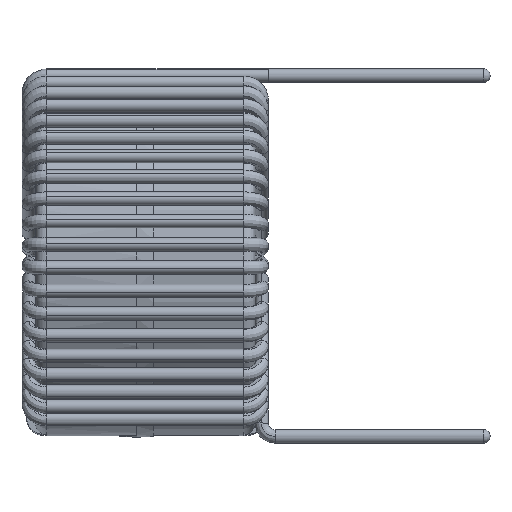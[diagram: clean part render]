
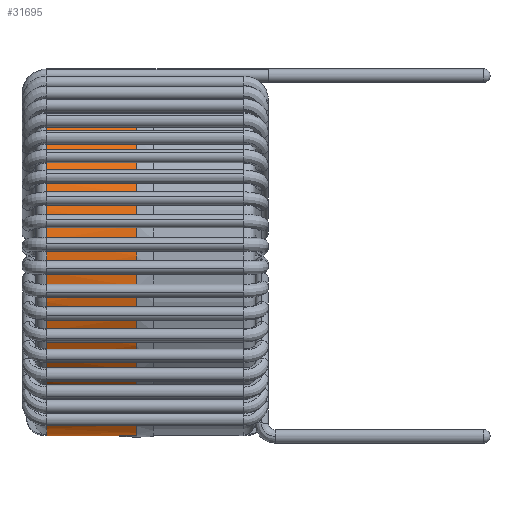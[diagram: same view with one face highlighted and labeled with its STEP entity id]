
A CAD part, left-side view. The second image highlights one B-rep face of the part: STEP entity #31695.
In plain terms, the highlighted cylindrical face has radius 10.6 mm (diameter 21.2 mm), a partial arc.
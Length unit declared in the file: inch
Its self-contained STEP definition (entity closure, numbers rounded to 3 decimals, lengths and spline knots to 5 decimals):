
#39 = VECTOR ( 'NONE', #16047, 39.37008 ) ;
#440 = VERTEX_POINT ( 'NONE', #8659 ) ;
#490 = EDGE_CURVE ( 'NONE', #31825, #17337, #29497, .T. ) ;
#605 = EDGE_CURVE ( 'NONE', #28403, #440, #31106, .T. ) ;
#658 = ORIENTED_EDGE ( 'NONE', *, *, #33085, .T. ) ;
#1029 = VECTOR ( 'NONE', #13688, 39.37008 ) ;
#1150 = CARTESIAN_POINT ( 'NONE',  ( 0., 0.25492, 0.41732 ) ) ;
#2117 = DIRECTION ( 'NONE',  ( 0., -1., 0. ) ) ;
#2166 = CARTESIAN_POINT ( 'NONE',  ( -0.01476, 0.23622, -0.41706 ) ) ;
#2294 = DIRECTION ( 'NONE',  ( 0., 0., 1. ) ) ;
#2312 = VECTOR ( 'NONE', #30551, 39.37008 ) ;
#2628 = VECTOR ( 'NONE', #13428, 39.37008 ) ;
#2908 = DIRECTION ( 'NONE',  ( 0., 0., 1. ) ) ;
#2927 = CARTESIAN_POINT ( 'NONE',  ( -0.01476, 0.22933, 0.41706 ) ) ;
#3363 = CARTESIAN_POINT ( 'NONE',  ( 0., 0.02008, 0.41732 ) ) ;
#3783 = AXIS2_PLACEMENT_3D ( 'NONE', #15179, #29377, #28081 ) ;
#4659 = FACE_OUTER_BOUND ( 'NONE', #34898, .T. ) ;
#4674 = EDGE_CURVE ( 'NONE', #6502, #36949, #12149, .T. ) ;
#4902 = ORIENTED_EDGE ( 'NONE', *, *, #38912, .T. ) ;
#5272 = ORIENTED_EDGE ( 'NONE', *, *, #490, .T. ) ;
#5689 = EDGE_CURVE ( 'NONE', #13527, #37315, #7384, .T. ) ;
#6007 = CARTESIAN_POINT ( 'NONE',  ( -0.04429, 0.27559, 0.41497 ) ) ;
#6102 = VECTOR ( 'NONE', #30007, 39.37008 ) ;
#6502 = VERTEX_POINT ( 'NONE', #30390 ) ;
#6916 = ORIENTED_EDGE ( 'NONE', *, *, #38375, .T. ) ;
#7082 = AXIS2_PLACEMENT_3D ( 'NONE', #32742, #32125, #14669 ) ;
#7384 = LINE ( 'NONE', #15141, #6102 ) ;
#7607 = LINE ( 'NONE', #1150, #2628 ) ;
#7856 = ORIENTED_EDGE ( 'NONE', *, *, #39850, .T. ) ;
#8297 = DIRECTION ( 'NONE',  ( 0., -1., 0. ) ) ;
#8659 = CARTESIAN_POINT ( 'NONE',  ( 0., 0.02008, -0.41732 ) ) ;
#8770 = CARTESIAN_POINT ( 'NONE',  ( 0., 0.23622, 0. ) ) ;
#9155 = EDGE_CURVE ( 'NONE', #6502, #25369, #29306, .T. ) ;
#9222 = ORIENTED_EDGE ( 'NONE', *, *, #31318, .T. ) ;
#9313 = EDGE_CURVE ( 'NONE', #31825, #36937, #18631, .T. ) ;
#9485 = ORIENTED_EDGE ( 'NONE', *, *, #28843, .T. ) ;
#9637 = VECTOR ( 'NONE', #2117, 39.37008 ) ;
#10011 = AXIS2_PLACEMENT_3D ( 'NONE', #39159, #21651, #2908 ) ;
#11441 = VECTOR ( 'NONE', #8297, 39.37008 ) ;
#11523 = CARTESIAN_POINT ( 'NONE',  ( -0.01476, 0.22933, -0.41706 ) ) ;
#11789 = DIRECTION ( 'NONE',  ( 0., -1., 0. ) ) ;
#12034 = EDGE_CURVE ( 'NONE', #33557, #13527, #7607, .T. ) ;
#12149 = LINE ( 'NONE', #21211, #39 ) ;
#12364 = ORIENTED_EDGE ( 'NONE', *, *, #12034, .F. ) ;
#12447 = ORIENTED_EDGE ( 'NONE', *, *, #9155, .T. ) ;
#12669 = CARTESIAN_POINT ( 'NONE',  ( -0.04429, 0.23622, 0.41497 ) ) ;
#12670 = ORIENTED_EDGE ( 'NONE', *, *, #605, .T. ) ;
#13319 = CIRCLE ( 'NONE', #24200, 0.41732 ) ;
#13428 = DIRECTION ( 'NONE',  ( 0., -1., 0. ) ) ;
#13527 = VERTEX_POINT ( 'NONE', #3363 ) ;
#13688 = DIRECTION ( 'NONE',  ( 0., -1., 0. ) ) ;
#14291 = VERTEX_POINT ( 'NONE', #36503 ) ;
#14491 = CARTESIAN_POINT ( 'NONE',  ( 0., 0.22933, 0.41732 ) ) ;
#14669 = DIRECTION ( 'NONE',  ( 0., 0., 1. ) ) ;
#14745 = CARTESIAN_POINT ( 'NONE',  ( -0.01476, 0.27559, 0.41706 ) ) ;
#14808 = VERTEX_POINT ( 'NONE', #11523 ) ;
#15024 = LINE ( 'NONE', #37684, #9637 ) ;
#15044 = DIRECTION ( 'NONE',  ( 0., 0., 1. ) ) ;
#15141 = CARTESIAN_POINT ( 'NONE',  ( 0., 0.25492, 0.41732 ) ) ;
#15179 = CARTESIAN_POINT ( 'NONE',  ( 0., 0.23622, 0. ) ) ;
#16043 = CIRCLE ( 'NONE', #24462, 0.41732 ) ;
#16047 = DIRECTION ( 'NONE',  ( 0., -1., 0. ) ) ;
#16504 = DIRECTION ( 'NONE',  ( 0., -1., 0. ) ) ;
#17337 = VERTEX_POINT ( 'NONE', #12669 ) ;
#17593 = DIRECTION ( 'NONE',  ( 0., -1., 0. ) ) ;
#18169 = EDGE_CURVE ( 'NONE', #440, #24044, #15024, .T. ) ;
#18412 = CARTESIAN_POINT ( 'NONE',  ( -0.04429, 0.22933, -0.41497 ) ) ;
#18631 = LINE ( 'NONE', #14745, #11441 ) ;
#20576 = CARTESIAN_POINT ( 'NONE',  ( 0., 0.22933, -0.41732 ) ) ;
#20839 = DIRECTION ( 'NONE',  ( 0., 0., -1. ) ) ;
#20936 = CARTESIAN_POINT ( 'NONE',  ( 0., 0.01969, -0.41732 ) ) ;
#21211 = CARTESIAN_POINT ( 'NONE',  ( -0.04429, 0.27559, -0.41497 ) ) ;
#21651 = DIRECTION ( 'NONE',  ( 0., 1., 0. ) ) ;
#23920 = AXIS2_PLACEMENT_3D ( 'NONE', #8770, #16504, #36614 ) ;
#24044 = VERTEX_POINT ( 'NONE', #20936 ) ;
#24200 = AXIS2_PLACEMENT_3D ( 'NONE', #33913, #31245, #2294 ) ;
#24400 = CIRCLE ( 'NONE', #10011, 0.41732 ) ;
#24462 = AXIS2_PLACEMENT_3D ( 'NONE', #35739, #17593, #15044 ) ;
#24705 = CYLINDRICAL_SURFACE ( 'NONE', #39034, 0.41732 ) ;
#25246 = ORIENTED_EDGE ( 'NONE', *, *, #4674, .F. ) ;
#25304 = ORIENTED_EDGE ( 'NONE', *, *, #9313, .F. ) ;
#25369 = VERTEX_POINT ( 'NONE', #2166 ) ;
#25901 = VECTOR ( 'NONE', #37001, 39.37008 ) ;
#28081 = DIRECTION ( 'NONE',  ( 0., 0., 1. ) ) ;
#28403 = VERTEX_POINT ( 'NONE', #20576 ) ;
#28843 = EDGE_CURVE ( 'NONE', #24044, #37315, #24400, .T. ) ;
#29306 = CIRCLE ( 'NONE', #23920, 0.41732 ) ;
#29377 = DIRECTION ( 'NONE',  ( 0., -1., 0. ) ) ;
#29497 = CIRCLE ( 'NONE', #3783, 0.41732 ) ;
#30007 = DIRECTION ( 'NONE',  ( 0., -1., 0. ) ) ;
#30390 = CARTESIAN_POINT ( 'NONE',  ( -0.04429, 0.23622, -0.41497 ) ) ;
#30504 = CIRCLE ( 'NONE', #7082, 0.41732 ) ;
#30551 = DIRECTION ( 'NONE',  ( 0., -1., 0. ) ) ;
#30915 = CARTESIAN_POINT ( 'NONE',  ( 0., 0.01969, 0.41732 ) ) ;
#31106 = LINE ( 'NONE', #33682, #1029 ) ;
#31245 = DIRECTION ( 'NONE',  ( 0., -1., 0. ) ) ;
#31318 = EDGE_CURVE ( 'NONE', #25369, #14808, #37666, .T. ) ;
#31695 = ADVANCED_FACE ( 'NONE', ( #4659 ), #24705, .T. ) ;
#31743 = CARTESIAN_POINT ( 'NONE',  ( -0.01476, 0.23622, 0.41706 ) ) ;
#31825 = VERTEX_POINT ( 'NONE', #31743 ) ;
#32125 = DIRECTION ( 'NONE',  ( 0., -1., 0. ) ) ;
#32742 = CARTESIAN_POINT ( 'NONE',  ( 0., 0.22933, 0. ) ) ;
#32949 = ORIENTED_EDGE ( 'NONE', *, *, #18169, .T. ) ;
#33085 = EDGE_CURVE ( 'NONE', #14291, #36949, #13319, .T. ) ;
#33557 = VERTEX_POINT ( 'NONE', #14491 ) ;
#33682 = CARTESIAN_POINT ( 'NONE',  ( 0., 0.25492, -0.41732 ) ) ;
#33913 = CARTESIAN_POINT ( 'NONE',  ( 0., 0.22933, 0. ) ) ;
#34449 = LINE ( 'NONE', #6007, #2312 ) ;
#34898 = EDGE_LOOP ( 'NONE', ( #12364, #4902, #25304, #5272, #7856, #658, #25246, #12447, #9222, #6916, #12670, #32949, #9485, #37663 ) ) ;
#35026 = CARTESIAN_POINT ( 'NONE',  ( 0., 0.25492, 0. ) ) ;
#35739 = CARTESIAN_POINT ( 'NONE',  ( 0., 0.22933, 0. ) ) ;
#36503 = CARTESIAN_POINT ( 'NONE',  ( -0.04429, 0.22933, 0.41497 ) ) ;
#36614 = DIRECTION ( 'NONE',  ( 0., 0., -1. ) ) ;
#36937 = VERTEX_POINT ( 'NONE', #2927 ) ;
#36949 = VERTEX_POINT ( 'NONE', #18412 ) ;
#37001 = DIRECTION ( 'NONE',  ( 0., -1., 0. ) ) ;
#37315 = VERTEX_POINT ( 'NONE', #30915 ) ;
#37663 = ORIENTED_EDGE ( 'NONE', *, *, #5689, .F. ) ;
#37666 = LINE ( 'NONE', #39594, #25901 ) ;
#37684 = CARTESIAN_POINT ( 'NONE',  ( 0., 0.25492, -0.41732 ) ) ;
#38375 = EDGE_CURVE ( 'NONE', #14808, #28403, #16043, .T. ) ;
#38912 = EDGE_CURVE ( 'NONE', #33557, #36937, #30504, .T. ) ;
#39034 = AXIS2_PLACEMENT_3D ( 'NONE', #35026, #11789, #20839 ) ;
#39159 = CARTESIAN_POINT ( 'NONE',  ( 0., 0.01969, 0. ) ) ;
#39594 = CARTESIAN_POINT ( 'NONE',  ( -0.01476, 0.27559, -0.41706 ) ) ;
#39850 = EDGE_CURVE ( 'NONE', #17337, #14291, #34449, .T. ) ;
